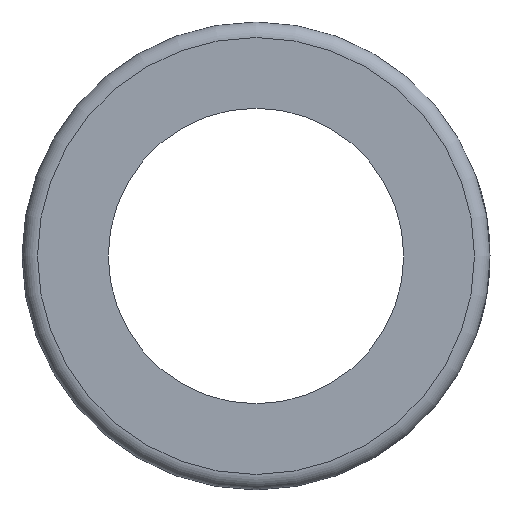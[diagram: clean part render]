
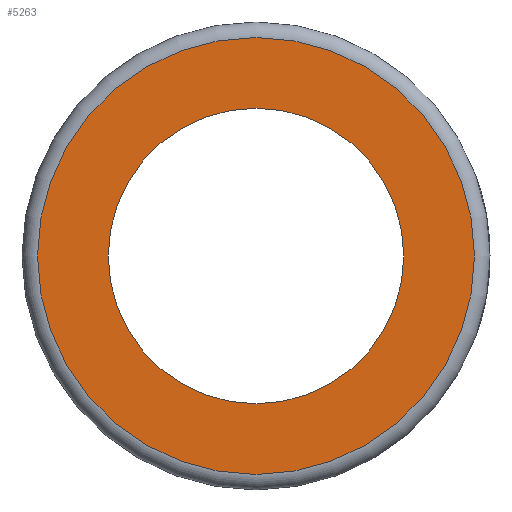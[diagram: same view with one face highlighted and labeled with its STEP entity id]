
A CAD part, left-side view. The second image highlights one B-rep face of the part: STEP entity #5263.
In plain terms, the highlighted planar face has unit normal (-1, 0, 0).
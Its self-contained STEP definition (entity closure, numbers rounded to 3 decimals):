
#120=PLANE('',#5673);
#1605=ORIENTED_EDGE('',*,*,#3193,.T.);
#1606=ORIENTED_EDGE('',*,*,#3194,.T.);
#3193=EDGE_CURVE('',#3987,#3987,#4351,.F.);
#3194=EDGE_CURVE('',#3988,#3988,#4352,.T.);
#3987=VERTEX_POINT('',#8373);
#3988=VERTEX_POINT('',#8375);
#4351=CIRCLE('',#5674,28.163);
#4352=CIRCLE('',#5675,19.05);
#4480=EDGE_LOOP('',(#1605));
#4481=EDGE_LOOP('',(#1606));
#4865=FACE_BOUND('',#4480,.T.);
#4866=FACE_BOUND('',#4481,.T.);
#5263=ADVANCED_FACE('',(#4865,#4866),#120,.F.);
#5673=AXIS2_PLACEMENT_3D('',#8371,#6225,#6226);
#5674=AXIS2_PLACEMENT_3D('',#8372,#6227,#6228);
#5675=AXIS2_PLACEMENT_3D('',#8374,#6229,#6230);
#6225=DIRECTION('',(1.,0.,0.));
#6226=DIRECTION('',(0.,0.,-1.));
#6227=DIRECTION('',(1.,0.,0.));
#6228=DIRECTION('',(0.,0.,-1.));
#6229=DIRECTION('',(1.,0.,0.));
#6230=DIRECTION('',(0.,0.,-1.));
#8371=CARTESIAN_POINT('',(-38.1,0.,0.));
#8372=CARTESIAN_POINT('',(-38.1,0.,0.));
#8373=CARTESIAN_POINT('',(-38.1,0.,-28.163));
#8374=CARTESIAN_POINT('',(-38.1,0.,0.));
#8375=CARTESIAN_POINT('',(-38.1,0.,-19.05));
